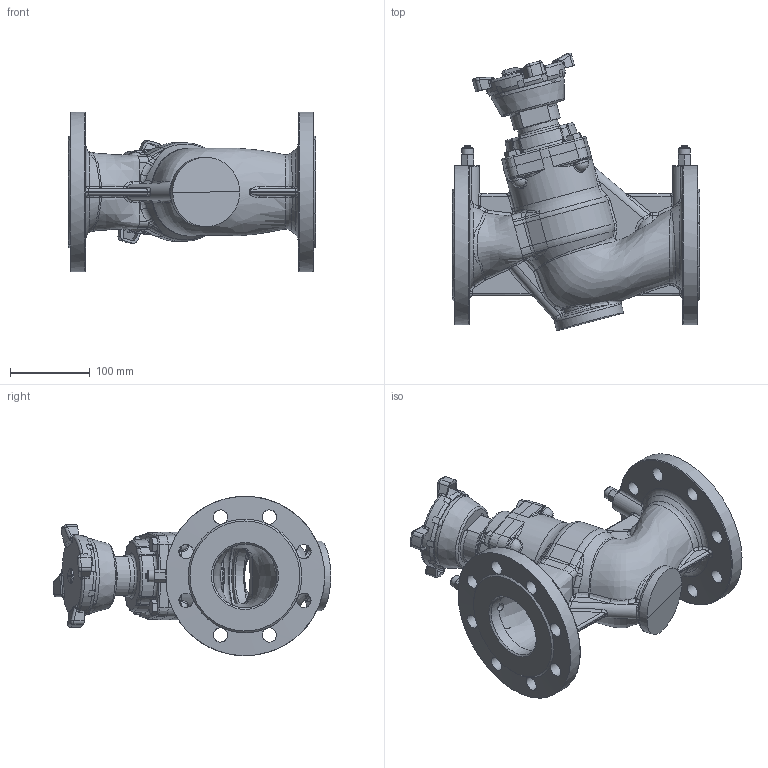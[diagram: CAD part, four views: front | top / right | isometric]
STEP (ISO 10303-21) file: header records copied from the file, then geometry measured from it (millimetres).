
FILE_DESCRIPTION (( 'STEP AP203' ), '1' );
FILE_NAME ('EKOFLUX.S_DN080.STEP', '2013-01-17T10:23:12', ( 'luca.saino' ), ( 'Hewlett-Packard Company' ), 'SwSTEP 2.0', 'SolidWorks 2012', '' );
FILE_SCHEMA (( 'CONFIG_CONTROL_DESIGN' ));
Products named in the file (1): EKOFLUX.S_DN080
Bounding box: 310 x 348.52 x 200 mm (x, y, z)
Volume: 3352018.7 mm3; surface area: 427924.2 mm2
Topology: 1 solids, 13 shells, 1206 faces, 3015 edges, 1785 vertices
Faces by surface type: bspline 405, plane 260, cylinder 232, cone 162, torus 123, sphere 24
Full cylindrical faces by diameter (mm): 4 x2, 5 x2, 6.5 x2, 8.5 x6, 10 x6, 11 x4, 11.44 x2, 15 x2, 18 x17, 51.251 x1, 78 x1, 80 x2, 87 x1, 95 x1, 102 x1, 110 x1
Entity records: 67556 total; most frequent: CARTESIAN_POINT 43367, ORIENTED_EDGE 5590, DIRECTION 4239, EDGE_CURVE 2795, AXIS2_PLACEMENT_3D 1866, VERTEX_POINT 1697, EDGE_LOOP 1328, FACE_OUTER_BOUND 1263
